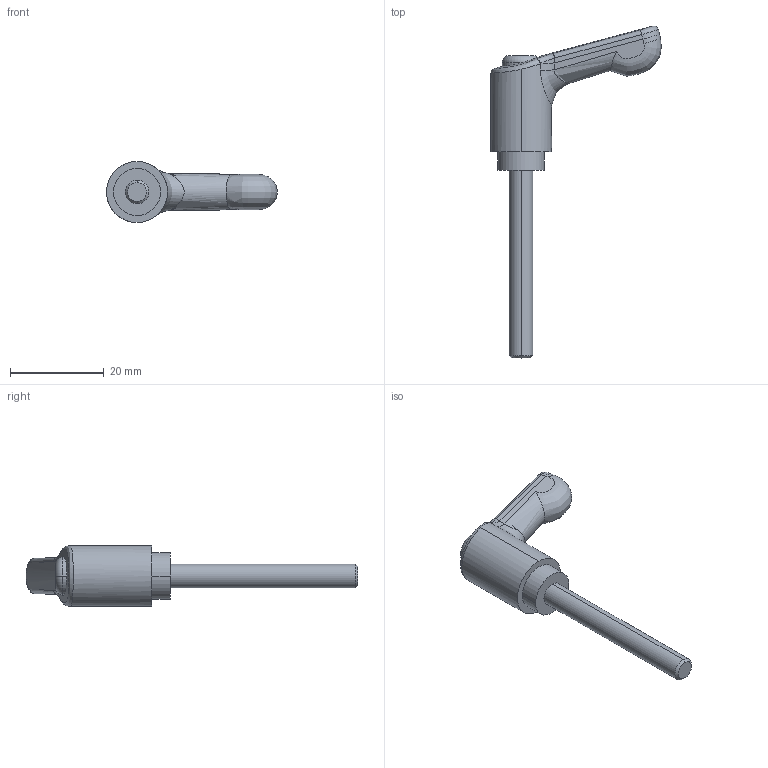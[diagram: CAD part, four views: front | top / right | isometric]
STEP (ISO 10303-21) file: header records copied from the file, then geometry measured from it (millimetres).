
FILE_DESCRIPTION (( 'STEP AP214' ), '1' );
FILE_NAME ('300.1-30-M5-40-SZ.step', '2021-04-09T11:01:18', ( '' ), ( '' ), 'SwSTEP 2.0', 'SolidWorks 2019', '' );
FILE_SCHEMA (( 'AUTOMOTIVE_DESIGN' ));
Length unit declared in the file: millimetre
Products named in the file (1): 300.1-30-M5-40-SZ
Bounding box: 36.44 x 70.8 x 13 mm (x, y, z)
Volume: 4879.7 mm3; surface area: 2501.2 mm2
Topology: 1 solids, 1 shells, 58 faces, 143 edges, 92 vertices
Faces by surface type: cylinder 28, bspline 16, plane 10, cone 2, torus 2
Entity records: 3313 total; most frequent: CARTESIAN_POINT 1684, ORIENTED_EDGE 286, DIRECTION 241, EDGE_CURVE 143, AXIS2_PLACEMENT_3D 103, VERTEX_POINT 92, EDGE_LOOP 63, CIRCLE 60
